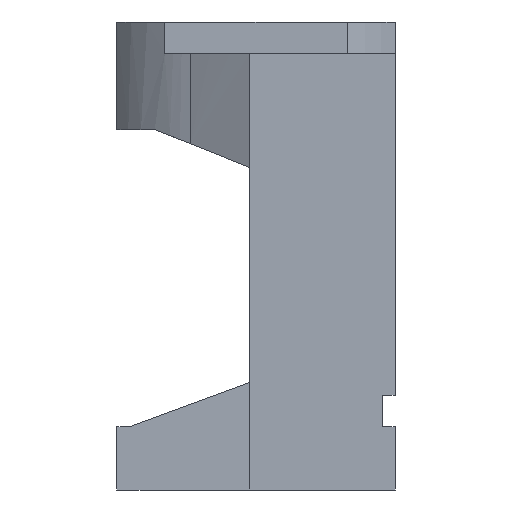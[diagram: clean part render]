
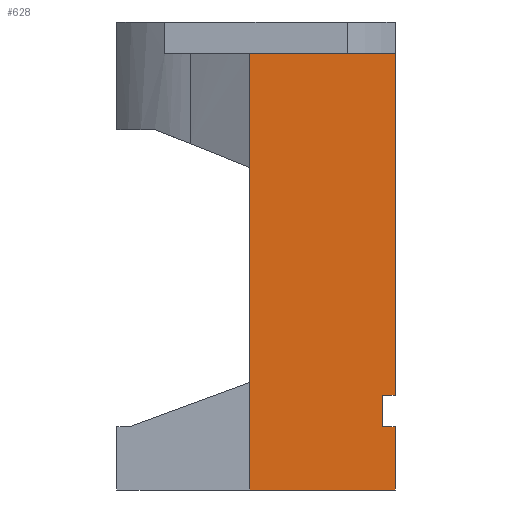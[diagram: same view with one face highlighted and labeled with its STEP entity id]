
A CAD part, left-side view. The second image highlights one B-rep face of the part: STEP entity #628.
In plain terms, the highlighted planar face has unit normal (-1, 0, 0).
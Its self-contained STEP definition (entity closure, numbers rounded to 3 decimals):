
#59 = DIRECTION ( 'NONE',  ( 0., 1., 0. ) ) ;
#60 = CARTESIAN_POINT ( 'NONE',  ( -32.5, 1., -5. ) ) ;
#73 = DIRECTION ( 'NONE',  ( 0., 0., -1. ) ) ;
#74 = CARTESIAN_POINT ( 'NONE',  ( -32.5, -22., 64. ) ) ;
#77 = DIRECTION ( 'NONE',  ( 0., 0., -1. ) ) ;
#78 = CARTESIAN_POINT ( 'NONE',  ( -32.5, -20., 64. ) ) ;
#123 = DIRECTION ( 'NONE',  ( 0., 1., 0. ) ) ;
#124 = CARTESIAN_POINT ( 'NONE',  ( -32.5, -22., 10. ) ) ;
#127 = DIRECTION ( 'NONE',  ( 0., -1., 0. ) ) ;
#128 = CARTESIAN_POINT ( 'NONE',  ( -32.5, -22., 5. ) ) ;
#150 = CARTESIAN_POINT ( 'NONE',  ( -32.5, -20., 10. ) ) ;
#151 = CARTESIAN_POINT ( 'NONE',  ( -32.5, -22., 64. ) ) ;
#153 = CARTESIAN_POINT ( 'NONE',  ( -32.5, -22., 10. ) ) ;
#179 = CARTESIAN_POINT ( 'NONE',  ( -32.5, 1., 64. ) ) ;
#228 = CARTESIAN_POINT ( 'NONE',  ( -32.5, -20., 5. ) ) ;
#450 = EDGE_CURVE ( 'NONE', #1774, #1772, #3129, .T. ) ;
#460 = EDGE_CURVE ( 'NONE', #1741, #1774, #3137, .T. ) ;
#628 = ADVANCED_FACE ( 'NONE', ( #3289 ), #2673, .T. ) ;
#744 = EDGE_CURVE ( 'NONE', #1357, #1741, #3361, .T. ) ;
#781 = VECTOR ( 'NONE', #884, 1000. ) ;
#884 = DIRECTION ( 'NONE',  ( 0., 0., -1. ) ) ;
#885 = DIRECTION ( 'NONE',  ( 0., -1., 0. ) ) ;
#889 = CARTESIAN_POINT ( 'NONE',  ( -32.5, -22., 64. ) ) ;
#1186 = CARTESIAN_POINT ( 'NONE',  ( -32.5, 1., 64. ) ) ;
#1352 = VERTEX_POINT ( 'NONE', #2843 ) ;
#1357 = VERTEX_POINT ( 'NONE', #2333 ) ;
#1367 = VERTEX_POINT ( 'NONE', #2371 ) ;
#1470 = VERTEX_POINT ( 'NONE', #228 ) ;
#1741 = VERTEX_POINT ( 'NONE', #179 ) ;
#1772 = VERTEX_POINT ( 'NONE', #153 ) ;
#1774 = VERTEX_POINT ( 'NONE', #151 ) ;
#1775 = VERTEX_POINT ( 'NONE', #150 ) ;
#1860 = EDGE_LOOP ( 'NONE', ( #2961, #2957, #2959, #2960, #2956, #2958, #2914, #2913 ) ) ;
#2100 = DIRECTION ( 'NONE',  ( 0., 1., 0. ) ) ;
#2333 = CARTESIAN_POINT ( 'NONE',  ( -32.5, 1., -5. ) ) ;
#2371 = CARTESIAN_POINT ( 'NONE',  ( -32.5, -22., 5. ) ) ;
#2447 = DIRECTION ( 'NONE',  ( 0., 0., 1. ) ) ;
#2492 = CARTESIAN_POINT ( 'NONE',  ( -32.5, 1., 64. ) ) ;
#2673 = PLANE ( 'NONE',  #3141 ) ;
#2674 = CARTESIAN_POINT ( 'NONE',  ( -32.5, -22., 64. ) ) ;
#2712 = DIRECTION ( 'NONE',  ( -1., 0., 0. ) ) ;
#2843 = CARTESIAN_POINT ( 'NONE',  ( -32.5, -22., -5. ) ) ;
#2913 = ORIENTED_EDGE ( 'NONE', *, *, #3880, .F. ) ;
#2914 = ORIENTED_EDGE ( 'NONE', *, *, #3855, .F. ) ;
#2956 = ORIENTED_EDGE ( 'NONE', *, *, #3888, .F. ) ;
#2957 = ORIENTED_EDGE ( 'NONE', *, *, #450, .F. ) ;
#2958 = ORIENTED_EDGE ( 'NONE', *, *, #3882, .F. ) ;
#2959 = ORIENTED_EDGE ( 'NONE', *, *, #460, .F. ) ;
#2960 = ORIENTED_EDGE ( 'NONE', *, *, #744, .F. ) ;
#2961 = ORIENTED_EDGE ( 'NONE', *, *, #3857, .F. ) ;
#3129 = LINE ( 'NONE', #889, #781 ) ;
#3137 = LINE ( 'NONE', #1186, #3496 ) ;
#3141 = AXIS2_PLACEMENT_3D ( 'NONE', #2674, #2712, #2100 ) ;
#3289 = FACE_OUTER_BOUND ( 'NONE', #1860, .T. ) ;
#3361 = LINE ( 'NONE', #2492, #3706 ) ;
#3371 = LINE ( 'NONE', #128, #3721 ) ;
#3373 = LINE ( 'NONE', #124, #3723 ) ;
#3393 = LINE ( 'NONE', #78, #3748 ) ;
#3395 = LINE ( 'NONE', #74, #3751 ) ;
#3399 = LINE ( 'NONE', #60, #3759 ) ;
#3496 = VECTOR ( 'NONE', #885, 1000. ) ;
#3706 = VECTOR ( 'NONE', #2447, 1000. ) ;
#3721 = VECTOR ( 'NONE', #127, 1000. ) ;
#3723 = VECTOR ( 'NONE', #123, 1000. ) ;
#3748 = VECTOR ( 'NONE', #77, 1000. ) ;
#3751 = VECTOR ( 'NONE', #73, 1000. ) ;
#3759 = VECTOR ( 'NONE', #59, 1000. ) ;
#3855 = EDGE_CURVE ( 'NONE', #1470, #1367, #3371, .T. ) ;
#3857 = EDGE_CURVE ( 'NONE', #1772, #1775, #3373, .T. ) ;
#3880 = EDGE_CURVE ( 'NONE', #1775, #1470, #3393, .T. ) ;
#3882 = EDGE_CURVE ( 'NONE', #1367, #1352, #3395, .T. ) ;
#3888 = EDGE_CURVE ( 'NONE', #1352, #1357, #3399, .T. ) ;
